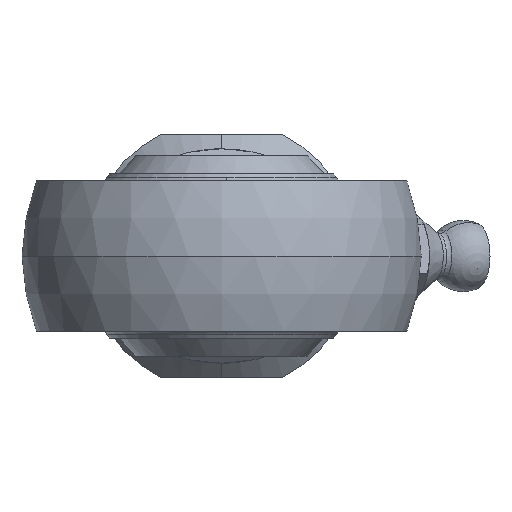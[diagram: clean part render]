
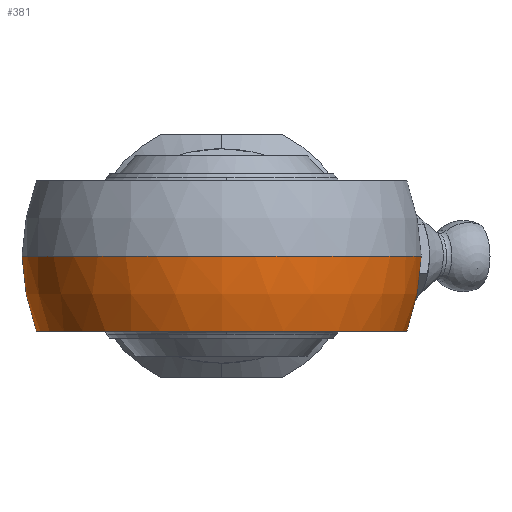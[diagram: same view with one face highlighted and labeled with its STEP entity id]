
A CAD part, left-side view. The second image highlights one B-rep face of the part: STEP entity #381.
In plain terms, the highlighted spherical face has radius 14 mm.
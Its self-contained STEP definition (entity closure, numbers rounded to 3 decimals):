
#276 = ORIENTED_EDGE ( 'NONE', *, *, #453, .T. ) ;
#277 = ORIENTED_EDGE ( 'NONE', *, *, #278, .T. ) ;
#278 = EDGE_CURVE ( 'NONE', #454, #461, #3018, .T. ) ;
#381 = ADVANCED_FACE ( 'NONE', ( #3182 ), #3183, .T. ) ;
#382 = EDGE_LOOP ( 'NONE', ( #460, #455, #456, #276, #277 ) ) ;
#453 = EDGE_CURVE ( 'NONE', #458, #454, #3545, .T. ) ;
#454 = VERTEX_POINT ( 'NONE', #3546 ) ;
#455 = ORIENTED_EDGE ( 'NONE', *, *, #463, .T. ) ;
#456 = ORIENTED_EDGE ( 'NONE', *, *, #457, .F. ) ;
#457 = EDGE_CURVE ( 'NONE', #458, #459, #3531, .T. ) ;
#458 = VERTEX_POINT ( 'NONE', #3418 ) ;
#459 = VERTEX_POINT ( 'NONE', #3417 ) ;
#460 = ORIENTED_EDGE ( 'NONE', *, *, #462, .T. ) ;
#461 = VERTEX_POINT ( 'NONE', #3416 ) ;
#462 = EDGE_CURVE ( 'NONE', #461, #464, #3414, .T. ) ;
#463 = EDGE_CURVE ( 'NONE', #464, #459, #3489, .T. ) ;
#464 = VERTEX_POINT ( 'NONE', #3541 ) ;
#3014 = DIRECTION ( 'NONE',  ( 1., 0., 0. ) ) ;
#3015 = DIRECTION ( 'NONE',  ( 0., 0., 1. ) ) ;
#3016 = CARTESIAN_POINT ( 'NONE',  ( 0., 0., -5.25 ) ) ;
#3017 = AXIS2_PLACEMENT_3D ( 'NONE', #3016, #3015, #3014 ) ;
#3018 = CIRCLE ( 'NONE', #3017, 12.978 ) ;
#3182 = FACE_OUTER_BOUND ( 'NONE', #382, .T. ) ;
#3183 = SPHERICAL_SURFACE ( 'NONE', #3379, 14. ) ;
#3376 = DIRECTION ( 'NONE',  ( 0., 1., 0. ) ) ;
#3377 = DIRECTION ( 'NONE',  ( 0., 0., -1. ) ) ;
#3378 = CARTESIAN_POINT ( 'NONE',  ( 0., 0., 0. ) ) ;
#3379 = AXIS2_PLACEMENT_3D ( 'NONE', #3378, #3377, #3376 ) ;
#3414 = CIRCLE ( 'NONE', #3493, 12.729 ) ;
#3415 = CARTESIAN_POINT ( 'NONE',  ( 0., 0., 0. ) ) ;
#3416 = CARTESIAN_POINT ( 'NONE',  ( 5.828, -11.596, -5.25 ) ) ;
#3417 = CARTESIAN_POINT ( 'NONE',  ( -14., 0., 0. ) ) ;
#3418 = CARTESIAN_POINT ( 'NONE',  ( 5.828, 12.729, 0. ) ) ;
#3427 = CARTESIAN_POINT ( 'NONE',  ( 0., 0., 0. ) ) ;
#3460 = DIRECTION ( 'NONE',  ( 0., 0., 1. ) ) ;
#3461 = DIRECTION ( 'NONE',  ( -1., 0., 0. ) ) ;
#3462 = CARTESIAN_POINT ( 'NONE',  ( 5.828, 0., 0. ) ) ;
#3463 = AXIS2_PLACEMENT_3D ( 'NONE', #3462, #3461, #3460 ) ;
#3489 = CIRCLE ( 'NONE', #3544, 14. ) ;
#3490 = DIRECTION ( 'NONE',  ( 0., 0., 1. ) ) ;
#3491 = DIRECTION ( 'NONE',  ( -1., 0., 0. ) ) ;
#3492 = CARTESIAN_POINT ( 'NONE',  ( 5.828, 0., 0. ) ) ;
#3493 = AXIS2_PLACEMENT_3D ( 'NONE', #3492, #3491, #3490 ) ;
#3528 = DIRECTION ( 'NONE',  ( 1., 0., 0. ) ) ;
#3529 = DIRECTION ( 'NONE',  ( 0., 0., 1. ) ) ;
#3530 = AXIS2_PLACEMENT_3D ( 'NONE', #3427, #3529, #3528 ) ;
#3531 = CIRCLE ( 'NONE', #3530, 14. ) ;
#3541 = CARTESIAN_POINT ( 'NONE',  ( 5.828, -12.729, 0. ) ) ;
#3542 = DIRECTION ( 'NONE',  ( 0., 1., 0. ) ) ;
#3543 = DIRECTION ( 'NONE',  ( 0., 0., -1. ) ) ;
#3544 = AXIS2_PLACEMENT_3D ( 'NONE', #3415, #3543, #3542 ) ;
#3545 = CIRCLE ( 'NONE', #3463, 12.729 ) ;
#3546 = CARTESIAN_POINT ( 'NONE',  ( 5.828, 11.596, -5.25 ) ) ;
